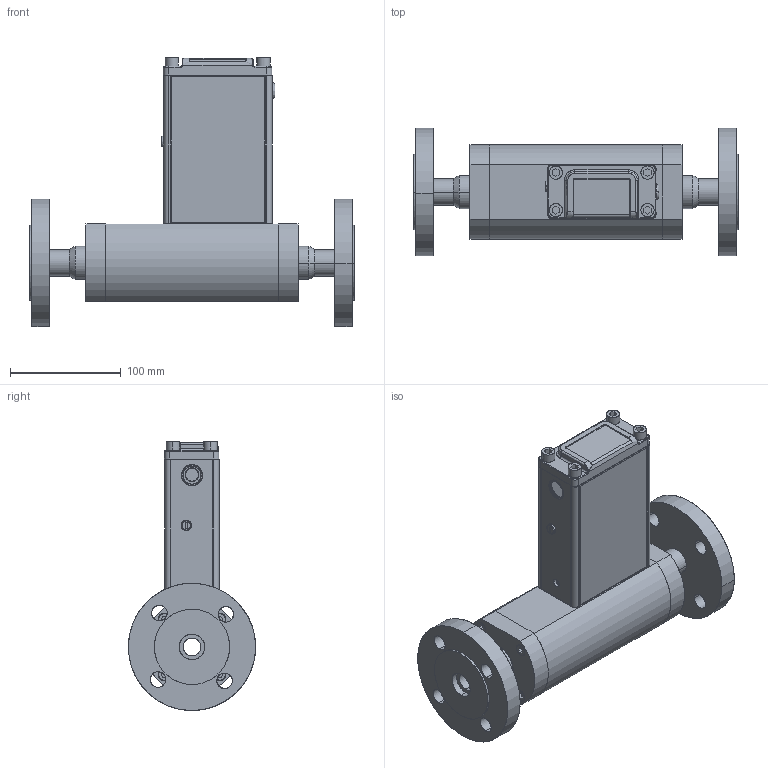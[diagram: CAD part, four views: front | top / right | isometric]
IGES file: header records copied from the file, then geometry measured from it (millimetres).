
Start section: SolidWorks IGES file using analytic representation for surfaces
Global section: file name: G:\Engineering\CAD MODELS FOR SALES\CAD MODEL STORAGE\SLA\SLAMF63\CUSTOMER FILES\IGES\SLAMF63-S-3B-0-Y-REVB.IGS; native system: SolidWorks 2023; preprocessor: SolidWorks 2023; author: SThen; date: 250211.112307; units: inch
Bounding box: 293.6 x 115 x 243.12 mm (x, y, z)
Surface area: 311761 mm2 (no closed solid volume)
Topology: 0 solids, 0 shells, 828 faces, 11698 edges, 11696 vertices
Faces by surface type: bspline 416, revolution 412
